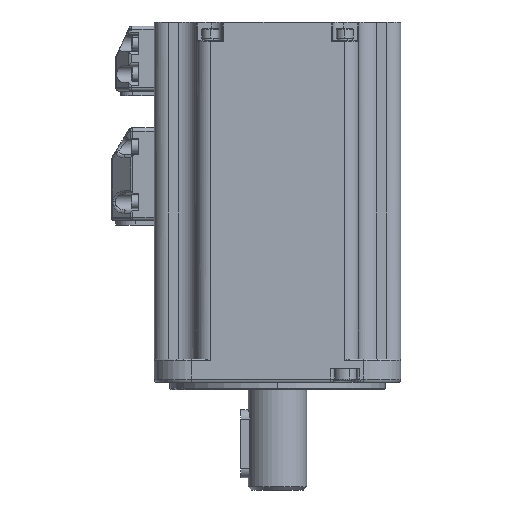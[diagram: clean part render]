
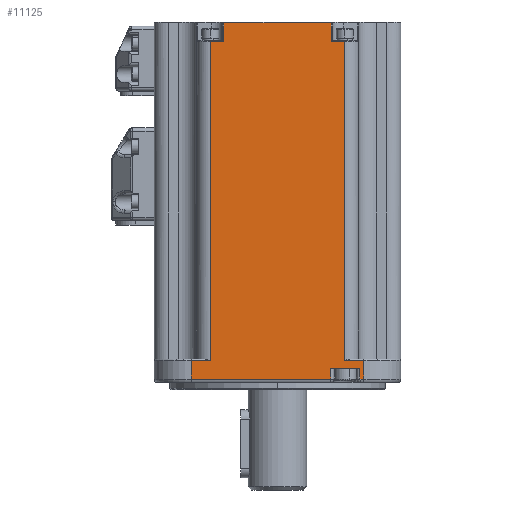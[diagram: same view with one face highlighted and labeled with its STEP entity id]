
A CAD part, left-side view. The second image highlights one B-rep face of the part: STEP entity #11125.
In plain terms, the highlighted planar face has unit normal (-1, 0, 0).
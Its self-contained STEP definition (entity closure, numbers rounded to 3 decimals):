
#225 = ORIENTED_EDGE ( 'NONE', *, *, #21740, .T. ) ;
#615 = VECTOR ( 'NONE', #41281, 1000. ) ;
#711 = EDGE_CURVE ( 'NONE', #30511, #10904, #27523, .T. ) ;
#973 = EDGE_CURVE ( 'NONE', #13075, #13622, #15509, .T. ) ;
#1719 = LINE ( 'NONE', #35470, #16825 ) ;
#2020 = VECTOR ( 'NONE', #14335, 1000. ) ;
#2514 = EDGE_CURVE ( 'NONE', #9470, #2673, #6845, .T. ) ;
#2673 = VERTEX_POINT ( 'NONE', #30698 ) ;
#3103 = DIRECTION ( 'NONE',  ( 0., 0., -1. ) ) ;
#3321 = ORIENTED_EDGE ( 'NONE', *, *, #711, .T. ) ;
#3353 = DIRECTION ( 'NONE',  ( 0., -1., 0. ) ) ;
#4053 = EDGE_CURVE ( 'NONE', #20986, #26549, #23232, .T. ) ;
#4261 = CARTESIAN_POINT ( 'NONE',  ( -40., -17.45, 102.1 ) ) ;
#4615 = VECTOR ( 'NONE', #7008, 1000. ) ;
#6097 = CARTESIAN_POINT ( 'NONE',  ( -40., -21.75, 0.5 ) ) ;
#6411 = CARTESIAN_POINT ( 'NONE',  ( -40., -17.242, -7.5 ) ) ;
#6726 = ORIENTED_EDGE ( 'NONE', *, *, #41138, .T. ) ;
#6845 = LINE ( 'NONE', #32850, #15845 ) ;
#7008 = DIRECTION ( 'NONE',  ( 0., 1., 0. ) ) ;
#7080 = EDGE_CURVE ( 'NONE', #9470, #32006, #15505, .T. ) ;
#7470 = VECTOR ( 'NONE', #3103, 1000. ) ;
#7730 = DIRECTION ( 'NONE',  ( 0., 0., 1. ) ) ;
#7887 = LINE ( 'NONE', #6097, #25434 ) ;
#9356 = CARTESIAN_POINT ( 'NONE',  ( -40., -26.742, -1. ) ) ;
#9470 = VERTEX_POINT ( 'NONE', #10960 ) ;
#9491 = DIRECTION ( 'NONE',  ( 0., 0., -1. ) ) ;
#9839 = LINE ( 'NONE', #6411, #23819 ) ;
#10331 = DIRECTION ( 'NONE',  ( 0., 0., -1. ) ) ;
#10726 = CARTESIAN_POINT ( 'NONE',  ( -40., 17.45, 108.4 ) ) ;
#10904 = VERTEX_POINT ( 'NONE', #21963 ) ;
#10960 = CARTESIAN_POINT ( 'NONE',  ( -40., -26.742, -4. ) ) ;
#11125 = ADVANCED_FACE ( 'NONE', ( #40781 ), #13712, .F. ) ;
#11492 = VERTEX_POINT ( 'NONE', #38801 ) ;
#12074 = EDGE_CURVE ( 'NONE', #40251, #21458, #30183, .T. ) ;
#12609 = VECTOR ( 'NONE', #7730, 1000. ) ;
#13045 = ORIENTED_EDGE ( 'NONE', *, *, #41339, .T. ) ;
#13075 = VERTEX_POINT ( 'NONE', #16759 ) ;
#13576 = EDGE_CURVE ( 'NONE', #11492, #30511, #38630, .T. ) ;
#13622 = VERTEX_POINT ( 'NONE', #14329 ) ;
#13667 = VECTOR ( 'NONE', #18367, 1000. ) ;
#13681 = ORIENTED_EDGE ( 'NONE', *, *, #36079, .F. ) ;
#13694 = ORIENTED_EDGE ( 'NONE', *, *, #7080, .T. ) ;
#13712 = PLANE ( 'NONE',  #19250 ) ;
#14008 = CARTESIAN_POINT ( 'NONE',  ( -40., 17.45, 102.1 ) ) ;
#14329 = CARTESIAN_POINT ( 'NONE',  ( -40., 28., -7.5 ) ) ;
#14335 = DIRECTION ( 'NONE',  ( 0., 1., 0. ) ) ;
#15429 = CARTESIAN_POINT ( 'NONE',  ( -40., -17.242, -1. ) ) ;
#15505 = LINE ( 'NONE', #9356, #18508 ) ;
#15509 = LINE ( 'NONE', #37411, #7470 ) ;
#15699 = EDGE_CURVE ( 'NONE', #32006, #11492, #33558, .T. ) ;
#15845 = VECTOR ( 'NONE', #29324, 1000. ) ;
#16234 = DIRECTION ( 'NONE',  ( 0., 1., 0. ) ) ;
#16759 = CARTESIAN_POINT ( 'NONE',  ( -40., 28., -1.5 ) ) ;
#16825 = VECTOR ( 'NONE', #22424, 1000. ) ;
#17220 = CARTESIAN_POINT ( 'NONE',  ( -40., -17.45, 108.1 ) ) ;
#17260 = VERTEX_POINT ( 'NONE', #34745 ) ;
#17713 = VECTOR ( 'NONE', #22752, 1000. ) ;
#18094 = LINE ( 'NONE', #40327, #615 ) ;
#18134 = ORIENTED_EDGE ( 'NONE', *, *, #13576, .T. ) ;
#18303 = ORIENTED_EDGE ( 'NONE', *, *, #15699, .T. ) ;
#18367 = DIRECTION ( 'NONE',  ( 0., 0., 1. ) ) ;
#18508 = VECTOR ( 'NONE', #9491, 1000. ) ;
#18971 = ORIENTED_EDGE ( 'NONE', *, *, #2514, .F. ) ;
#19155 = CARTESIAN_POINT ( 'NONE',  ( -40., 26.25, 102.1 ) ) ;
#19250 = AXIS2_PLACEMENT_3D ( 'NONE', #23627, #26847, #26561 ) ;
#19424 = ORIENTED_EDGE ( 'NONE', *, *, #33279, .T. ) ;
#20112 = CARTESIAN_POINT ( 'NONE',  ( -40., -28., -1.5 ) ) ;
#20210 = VECTOR ( 'NONE', #16234, 1000. ) ;
#20986 = VERTEX_POINT ( 'NONE', #14008 ) ;
#21458 = VERTEX_POINT ( 'NONE', #39412 ) ;
#21740 = EDGE_CURVE ( 'NONE', #13622, #34045, #9839, .T. ) ;
#21963 = CARTESIAN_POINT ( 'NONE',  ( -40., -21.75, -1.5 ) ) ;
#22424 = DIRECTION ( 'NONE',  ( 0., 1., 0. ) ) ;
#22604 = CARTESIAN_POINT ( 'NONE',  ( -40., 21.75, 0.5 ) ) ;
#22695 = CARTESIAN_POINT ( 'NONE',  ( -40., 26.25, 102.1 ) ) ;
#22697 = LINE ( 'NONE', #15429, #13667 ) ;
#22752 = DIRECTION ( 'NONE',  ( 0., 0., -1. ) ) ;
#23232 = LINE ( 'NONE', #19155, #20210 ) ;
#23627 = CARTESIAN_POINT ( 'NONE',  ( -40., 40., -1. ) ) ;
#23819 = VECTOR ( 'NONE', #3353, 1000. ) ;
#24589 = ORIENTED_EDGE ( 'NONE', *, *, #38536, .T. ) ;
#25339 = EDGE_LOOP ( 'NONE', ( #13681, #13045, #25367, #28495, #19424, #31612, #29563, #24589, #34299, #225, #6726, #18971, #13694, #18303, #18134, #3321 ) ) ;
#25367 = ORIENTED_EDGE ( 'NONE', *, *, #33410, .T. ) ;
#25434 = VECTOR ( 'NONE', #10331, 1000. ) ;
#26125 = LINE ( 'NONE', #22695, #4615 ) ;
#26549 = VERTEX_POINT ( 'NONE', #36198 ) ;
#26561 = DIRECTION ( 'NONE',  ( 0., 1., 0. ) ) ;
#26637 = DIRECTION ( 'NONE',  ( 0., 0., -1. ) ) ;
#26767 = CARTESIAN_POINT ( 'NONE',  ( -40., -28., -1. ) ) ;
#26847 = DIRECTION ( 'NONE',  ( 1., 0., 0. ) ) ;
#27035 = CARTESIAN_POINT ( 'NONE',  ( -40., 17.75, 108.1 ) ) ;
#27523 = LINE ( 'NONE', #39760, #2020 ) ;
#28495 = ORIENTED_EDGE ( 'NONE', *, *, #12074, .T. ) ;
#29324 = DIRECTION ( 'NONE',  ( 0., 1., 0. ) ) ;
#29563 = ORIENTED_EDGE ( 'NONE', *, *, #31140, .T. ) ;
#29830 = CARTESIAN_POINT ( 'NONE',  ( -40., -17.242, -7.5 ) ) ;
#30183 = LINE ( 'NONE', #27035, #40177 ) ;
#30511 = VERTEX_POINT ( 'NONE', #20112 ) ;
#30698 = CARTESIAN_POINT ( 'NONE',  ( -40., -17.242, -4. ) ) ;
#31137 = VECTOR ( 'NONE', #26637, 1000. ) ;
#31140 = EDGE_CURVE ( 'NONE', #26549, #31652, #36771, .T. ) ;
#31612 = ORIENTED_EDGE ( 'NONE', *, *, #4053, .T. ) ;
#31652 = VERTEX_POINT ( 'NONE', #34541 ) ;
#32006 = VERTEX_POINT ( 'NONE', #37150 ) ;
#32850 = CARTESIAN_POINT ( 'NONE',  ( -40., -18.242, -4. ) ) ;
#33276 = VERTEX_POINT ( 'NONE', #4261 ) ;
#33279 = EDGE_CURVE ( 'NONE', #21458, #20986, #36189, .T. ) ;
#33347 = DIRECTION ( 'NONE',  ( 0., 1., 0. ) ) ;
#33410 = EDGE_CURVE ( 'NONE', #33276, #40251, #18094, .T. ) ;
#33558 = LINE ( 'NONE', #40620, #37054 ) ;
#34045 = VERTEX_POINT ( 'NONE', #29830 ) ;
#34299 = ORIENTED_EDGE ( 'NONE', *, *, #973, .T. ) ;
#34541 = CARTESIAN_POINT ( 'NONE',  ( -40., 21.75, -1.5 ) ) ;
#34641 = DIRECTION ( 'NONE',  ( 0., -1., 0. ) ) ;
#34745 = CARTESIAN_POINT ( 'NONE',  ( -40., -21.75, 102.1 ) ) ;
#35470 = CARTESIAN_POINT ( 'NONE',  ( -40., 40., -1.5 ) ) ;
#36079 = EDGE_CURVE ( 'NONE', #17260, #10904, #7887, .T. ) ;
#36189 = LINE ( 'NONE', #10726, #31137 ) ;
#36198 = CARTESIAN_POINT ( 'NONE',  ( -40., 21.75, 102.1 ) ) ;
#36771 = LINE ( 'NONE', #22604, #17713 ) ;
#37054 = VECTOR ( 'NONE', #34641, 1000. ) ;
#37150 = CARTESIAN_POINT ( 'NONE',  ( -40., -26.742, -7.5 ) ) ;
#37411 = CARTESIAN_POINT ( 'NONE',  ( -40., 28., -1. ) ) ;
#38536 = EDGE_CURVE ( 'NONE', #31652, #13075, #1719, .T. ) ;
#38630 = LINE ( 'NONE', #26767, #12609 ) ;
#38801 = CARTESIAN_POINT ( 'NONE',  ( -40., -28., -7.5 ) ) ;
#39412 = CARTESIAN_POINT ( 'NONE',  ( -40., 17.45, 108.1 ) ) ;
#39760 = CARTESIAN_POINT ( 'NONE',  ( -40., 40., -1.5 ) ) ;
#40177 = VECTOR ( 'NONE', #33347, 1000. ) ;
#40251 = VERTEX_POINT ( 'NONE', #17220 ) ;
#40327 = CARTESIAN_POINT ( 'NONE',  ( -40., -17.45, 108.4 ) ) ;
#40620 = CARTESIAN_POINT ( 'NONE',  ( -40., -28., -7.5 ) ) ;
#40781 = FACE_OUTER_BOUND ( 'NONE', #25339, .T. ) ;
#41138 = EDGE_CURVE ( 'NONE', #34045, #2673, #22697, .T. ) ;
#41281 = DIRECTION ( 'NONE',  ( 0., 0., 1. ) ) ;
#41339 = EDGE_CURVE ( 'NONE', #17260, #33276, #26125, .T. ) ;
